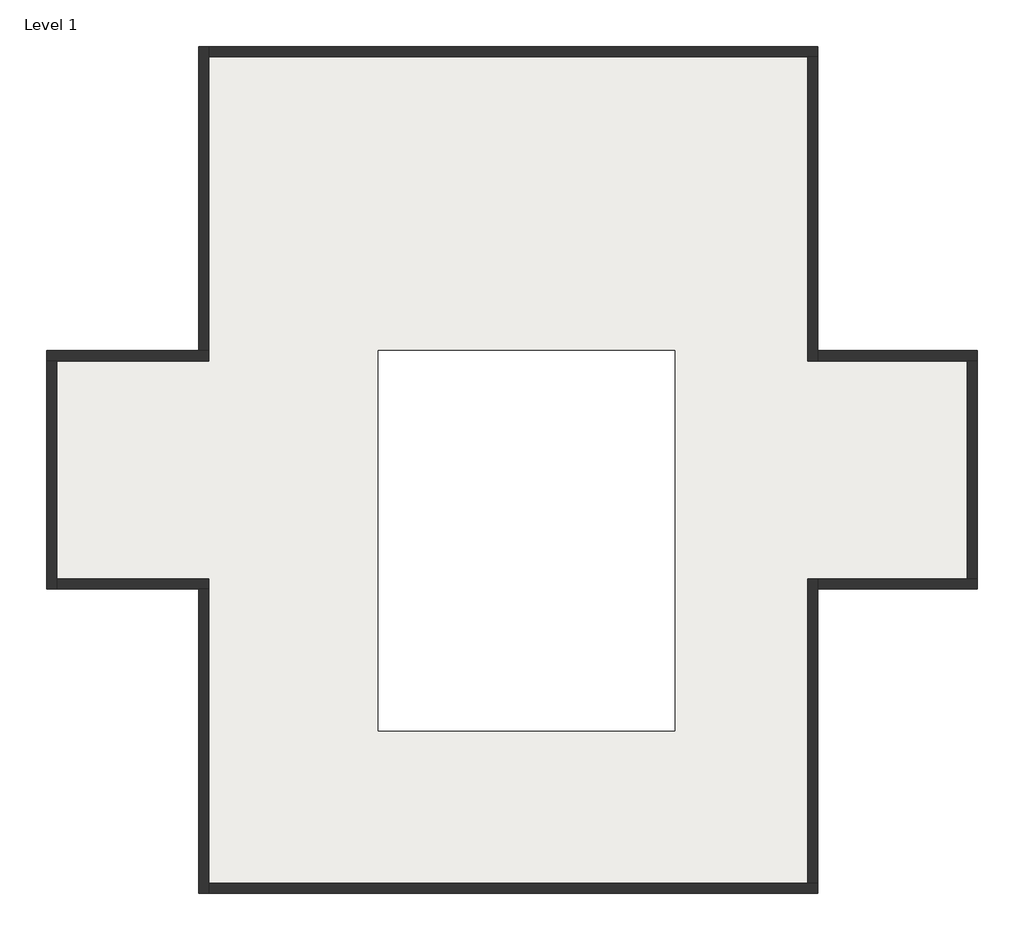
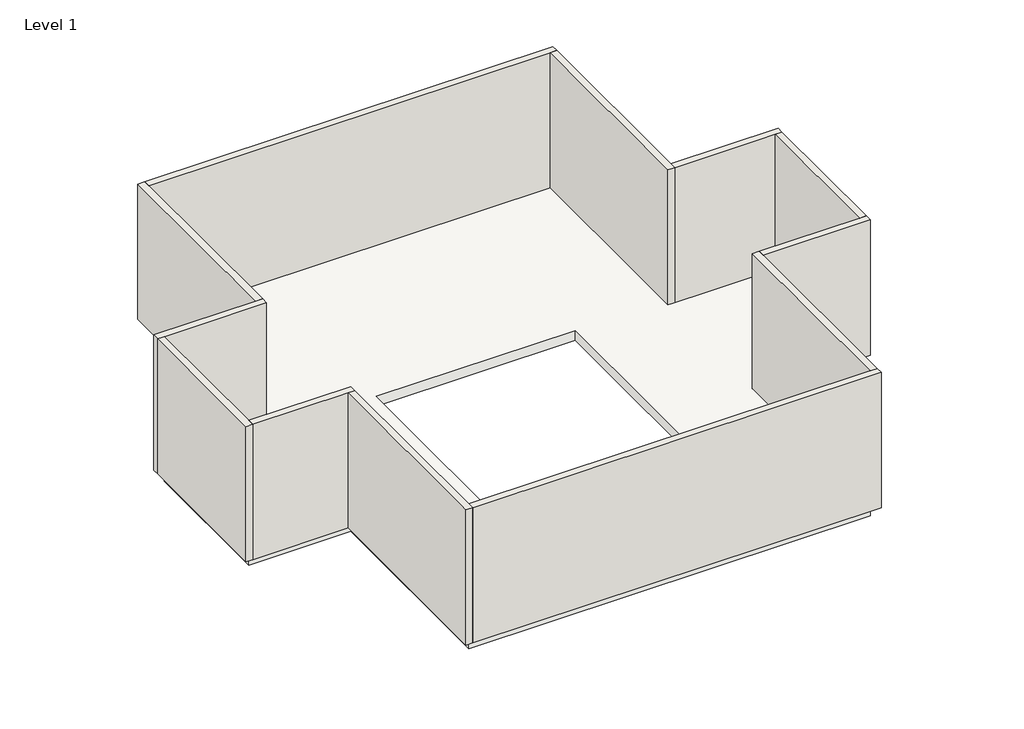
# One storey: 12 walls, 1 slab.
"""IFC4 building model written with IfcOpenShell, lengths in millimetres."""

import ifcopenshell
import ifcopenshell.guid

model = None  # the IFC model being written
_history = None  # IfcOwnerHistory: only IFC2X3 demands one
_inside = {}  # id of a spatial element -> (the spatial element, [elements in it])
_under = {}  # id of a project, library or spatial element -> (it, [spatial elements below it])
_declared = {}  # id of a project -> (the project, [libraries it declares])
_typed = {}  # id of a type object -> (the type object, [elements of that type])
_made_of = {}  # id of a material, layer set ... -> (it, [elements and type objects made of it])


def new_model(schema):
    """Start an empty IFC model of exactly this schema.

    Asked for "IFC4X3", IfcOpenShell would pick the latest addendum, in which some entities
    have other attributes; the version numbers below select the first issue.
    IFC2X3 requires an IfcOwnerHistory on every rooted entity: one is made here for all.
    """
    global model, _history
    if schema == "IFC4X3":
        model = ifcopenshell.file(schema_version=(4, 3, 0, 0))
    else:
        model = ifcopenshell.file(schema=schema)
    _inside.clear()
    _under.clear()
    _declared.clear()
    _typed.clear()
    _made_of.clear()
    _history = None
    if model.schema == "IFC2X3":
        org = make("IfcOrganization", Name="unknown")
        user = make(
            "IfcPersonAndOrganization",
            ThePerson=make("IfcPerson", FamilyName="unknown"),
            TheOrganization=org,
        )
        app = make(
            "IfcApplication",
            ApplicationDeveloper=org,
            Version="unknown",
            ApplicationFullName="unknown",
            ApplicationIdentifier="unknown",
        )
        _history = make(
            "IfcOwnerHistory",
            OwningUser=user,
            OwningApplication=app,
            ChangeAction="ADDED",
            CreationDate=0,
        )
    return model


def make(cls, **values):
    """One entity of the class cls with the attributes given. An attribute that is None is left unset."""
    return model.create_entity(
        cls, **{name: value for name, value in values.items() if value is not None}
    )


def rooted(cls, **values):
    """An entity with a GlobalId (a new one), such as an element, a storey or a relation."""
    return make(cls, GlobalId=ifcopenshell.guid.new(), OwnerHistory=_history, **values)


def si_unit(unit_type, name, prefix=None):
    """IfcSIUnit, for example si_unit("LENGTHUNIT", "METRE", prefix="MILLI")."""
    return make("IfcSIUnit", UnitType=unit_type, Prefix=prefix, Name=name)


def assignment(units):
    """IfcUnitAssignment: the units of a project."""
    return None if units is None else make("IfcUnitAssignment", Units=units)


def point(xyz):
    """IfcCartesianPoint."""
    return None if xyz is None else make("IfcCartesianPoint", Coordinates=xyz)


def direction(xyz):
    """IfcDirection."""
    return None if xyz is None else make("IfcDirection", DirectionRatios=xyz)


def frame(location, z_axis=None, x_axis=None):
    """IfcAxis2Placement3D, a coordinate frame: its origin and axes. An axis left out is left unset."""
    return make(
        "IfcAxis2Placement3D",
        Location=point(location),
        Axis=direction(z_axis),
        RefDirection=direction(x_axis),
    )


def origin():
    """The frame at (0, 0, 0) with its axes left unset."""
    return frame((0.0, 0.0, 0.0))


def origin_with_axes():
    """The frame at (0, 0, 0) with the z axis (0, 0, 1) and the x axis (1, 0, 0) written out."""
    return frame((0.0, 0.0, 0.0), z_axis=(0.0, 0.0, 1.0), x_axis=(1.0, 0.0, 0.0))


def place(relative_to, where):
    """IfcLocalPlacement: puts the frame where relative to a parent placement (None: the world)."""
    return make(
        "IfcLocalPlacement", PlacementRelTo=relative_to, RelativePlacement=where
    )


def context(
    kind, dimensions, precision=None, world=None, true_north=None, identifier=None
):
    """IfcGeometricRepresentationContext, for example the 3D "Model" context."""
    return make(
        "IfcGeometricRepresentationContext",
        ContextIdentifier=identifier,
        ContextType=kind,
        CoordinateSpaceDimension=dimensions,
        Precision=precision,
        WorldCoordinateSystem=world,
        TrueNorth=true_north,
    )


def project(units=None, contexts=None):
    """IfcProject with its units and contexts."""
    return rooted(
        "IfcProject",
        Name="project",
        RepresentationContexts=contexts,
        UnitsInContext=assignment(units),
    )


def spatial(cls, under=None, at=None, **own):
    """A site, building, storey or space (cls), placed at a placement, below another one or the project."""
    s = rooted(cls, ObjectPlacement=at, **own)
    if under is not None:
        _under.setdefault(under.id(), (under, []))[1].append(s)
    return s


def polyline(points):
    """IfcPolyline through the points."""
    return make("IfcPolyline", Points=[point(p) for p in points])


def outline(outer, holes=None, kind="AREA"):
    """IfcArbitraryClosedProfileDef: a profile drawn as a closed curve; with holes, ...WithVoids."""
    if holes is None:
        return make("IfcArbitraryClosedProfileDef", ProfileType=kind, OuterCurve=outer)
    return make(
        "IfcArbitraryProfileDefWithVoids",
        ProfileType=kind,
        OuterCurve=outer,
        InnerCurves=holes,
    )


def extrude(swept, where, along, depth):
    """IfcExtrudedAreaSolid: the profile swept, set in the frame where, extruded along a direction by depth."""
    return make(
        "IfcExtrudedAreaSolid",
        SweptArea=swept,
        Position=where,
        ExtrudedDirection=direction(along),
        Depth=depth,
    )


def faces_of(points, faces, orient=None, outer=None):
    """IfcFace entities. A face is a list of loops; a loop is a list of indices into points, from 0.

    orient and outer hold one flag for each loop. By default every Orientation is true, the
    first loop of a face is its IfcFaceOuterBound and the others are IfcFaceBound.
    """
    made = []
    for i, loops in enumerate(faces):
        bounds = []
        for j, loop in enumerate(loops):
            is_outer = j == 0 if outer is None else outer[i][j]
            bounds.append(
                make(
                    "IfcFaceOuterBound" if is_outer else "IfcFaceBound",
                    Bound=make("IfcPolyLoop", Polygon=[points[k] for k in loop]),
                    Orientation=True if orient is None else orient[i][j],
                )
            )
        made.append(make("IfcFace", Bounds=bounds))
    return made


def faceted_brep(points, faces, orient=None, outer=None, voids=None):
    """IfcFacetedBrep: a solid bounded by flat faces; with voids (closed shells), ...WithVoids."""
    shared = [point(p) for p in points]
    hull = make("IfcClosedShell", CfsFaces=faces_of(shared, faces, orient, outer))
    if voids is None:
        return make("IfcFacetedBrep", Outer=hull)
    return make(
        "IfcFacetedBrepWithVoids",
        Outer=hull,
        Voids=[
            make(cls, CfsFaces=faces_of(shared, fs, o, b)) for cls, fs, o, b in voids
        ],
    )


def shape(context_of_items, identifier, shape_type, items):
    """IfcShapeRepresentation: the items that make up one representation, for example the "Body"."""
    return make(
        "IfcShapeRepresentation",
        ContextOfItems=context_of_items,
        RepresentationIdentifier=identifier,
        RepresentationType=shape_type,
        Items=items,
    )


def made_of(thing, what):
    """Note that an element or type object is made of a material, layer set ...; save() writes the relation."""
    if what is not None:
        _made_of.setdefault(what.id(), (what, []))[1].append(thing)
    return thing


def element(
    cls,
    number,
    at=None,
    inside=None,
    cuts=None,
    type_object=None,
    material=None,
    context=None,
    identifier="Body",
    shape_type=None,
    held_by="IfcProductDefinitionShape",
    body=None,
    shapes=None,
    **own,
):
    """One element of the class cls, such as IfcWall. Its Tag is "e" and its number.

    at: its placement. inside: the storey or other place that contains it. cuts: it is an
    opening in that element (IfcRelVoidsElement). A single representation is given by context,
    identifier, shape_type and body (its items); several are given by shapes. held_by: the class
    of the entity that holds the representations. save() writes the other relations.
    """
    e = rooted(cls, Tag="e%d" % number, ObjectPlacement=at, **own)
    if body is not None:
        shapes = [shape(context, identifier, shape_type, body)]
    if shapes is not None:
        e.Representation = make(held_by, Representations=shapes)
    if inside is not None:
        _inside.setdefault(inside.id(), (inside, []))[1].append(e)
    if cuts is not None:
        rooted(
            "IfcRelVoidsElement", RelatingBuildingElement=cuts, RelatedOpeningElement=e
        )
    if type_object is not None:
        _typed.setdefault(type_object.id(), (type_object, []))[1].append(e)
    return made_of(e, material)


def aggregate(whole, parts):
    """IfcRelAggregates: a whole, such as a stair, and the parts it consists of."""
    return rooted("IfcRelAggregates", RelatingObject=whole, RelatedObjects=parts)


def save(model, path):
    """Write the relations noted so far, then the file.

    IfcRelAggregates (storeys below a building ...), IfcRelContainedInSpatialStructure (elements
    in a storey), IfcRelDefinesByType, IfcRelAssociatesMaterial and IfcRelDeclares: one each for
    every whole, place, type object, material and project.
    """
    for whole, parts in _under.values():
        aggregate(whole, parts)
    for where, things in _inside.values():
        rooted(
            "IfcRelContainedInSpatialStructure",
            RelatedElements=things,
            RelatingStructure=where,
        )
    for kind, things in _typed.values():
        rooted("IfcRelDefinesByType", RelatedObjects=things, RelatingType=kind)
    for what, things in _made_of.values():
        rooted("IfcRelAssociatesMaterial", RelatedObjects=things, RelatingMaterial=what)
    for by, libraries in _declared.values():
        rooted("IfcRelDeclares", RelatingContext=by, RelatedDefinitions=libraries)
    model.write(path)


model = new_model("IFC4")

# Units and contexts
model_context = context("Model", 3, world=origin())
ifc_project = project(units=[si_unit("LENGTHUNIT", "METRE", prefix="MILLI")], contexts=[model_context])

# Site, building, storey
site = spatial("IfcSite", under=ifc_project)
building = spatial("IfcBuilding", under=site)
storey = spatial("IfcBuildingStorey", under=building, Name="Level 1", Elevation=0.0)

# Slab
placement = place(None, origin())
element("IfcSlab", 1, ObjectType="Generic - 12\"", at=placement, inside=storey, context=model_context, shape_type="SweptSolid", body=[
    extrude(outline(polyline([(6530.3643431, 7987.4066271), (6530.3643431, 1891.4066271), (9730.7643431, 1891.4066271), (9730.7643431, -2477.3933729), (6530.3643431, -2477.3933729), (6530.3643431, -8573.3933729), (-5458.4356569, -8573.3933729), (-5458.4356569, -2477.3933729), (-8506.4356569, -2477.3933729), (-8506.4356569, 1891.4066271), (-5458.4356569, 1891.4066271), (-5458.4356569, 7987.4066271), (6530.3643431, 7987.4066271)]), holes=[polyline([(3873.446002, -5525.3933729), (3873.446002, 2094.6066271), (-2070.153998, 2094.6066271), (-2070.153998, -5525.3933729), (3873.446002, -5525.3933729)])]), frame((0.0, 0.0, -304.8), z_axis=(0.0, 0.0, 1.0), x_axis=(1.0, 0.0, 0.0)), (0.0, 0.0, 1.0), 304.8),
])

# Walls
element("IfcWall", 2, ObjectType="Generic - 8\"", at=placement, inside=storey, context=model_context, shape_type="Brep", body=[
    faceted_brep([(-8709.6356569, 1891.4066271, 0.0), (-8506.4356569, 1891.4066271, 0.0), (-5458.4356569, 1891.4066271, 0.0), (-5458.4356569, 1891.4066271, 4267.2), (-8506.4356569, 1891.4066271, 4267.2), (-8709.6356569, 1891.4066271, 4267.2), (-8709.6356569, 2094.6066271, 0.0), (-8709.6356569, 2094.6066271, 4267.2), (-5661.6356569, 2094.6066271, 4267.2), (-5458.4356569, 2094.6066271, 4267.2), (-5458.4356569, 2094.6066271, 0.0), (-5661.6356569, 2094.6066271, 0.0)], [[[0, 1, 2, 3, 4, 5]], [[6, 7, 8, 9, 10, 11]], [[2, 1, 0, 6, 11, 10]], [[5, 4, 3, 9, 8, 7]], [[3, 2, 10, 9]], [[0, 5, 7, 6]]]),
])
element("IfcWall", 3, ObjectType="Generic - 8\"", at=placement, inside=storey, context=model_context, shape_type="Brep", body=[
    faceted_brep([(-5458.4356569, 2094.6066271, 0.0), (-5458.4356569, 7987.4066271, 0.0), (-5458.4356569, 8190.6066271, 0.0), (-5458.4356569, 8190.6066271, 4267.2), (-5458.4356569, 7987.4066271, 4267.2), (-5458.4356569, 2094.6066271, 4267.2), (-5661.6356569, 2094.6066271, 0.0), (-5661.6356569, 2094.6066271, 4267.2), (-5661.6356569, 8190.6066271, 4267.2), (-5661.6356569, 8190.6066271, 0.0)], [[[0, 1, 2, 3, 4, 5]], [[6, 7, 8, 9]], [[2, 1, 0, 6, 9]], [[5, 4, 3, 8, 7]], [[3, 2, 9, 8]], [[0, 5, 7, 6]]]),
])
element("IfcWall", 4, ObjectType="Generic - 8\"", at=placement, inside=storey, context=model_context, shape_type="Brep", body=[
    faceted_brep([(-5458.4356569, 7987.4066271, 0.0), (6530.3643431, 7987.4066271, 0.0), (6733.5643431, 7987.4066271, 0.0), (6733.5643431, 7987.4066271, 4267.2), (6530.3643431, 7987.4066271, 4267.2), (-5458.4356569, 7987.4066271, 4267.2), (-5458.4356569, 8190.6066271, 0.0), (-5458.4356569, 8190.6066271, 4267.2), (6733.5643431, 8190.6066271, 4267.2), (6733.5643431, 8190.6066271, 0.0)], [[[0, 1, 2, 3, 4, 5]], [[6, 7, 8, 9]], [[2, 1, 0, 6, 9]], [[5, 4, 3, 8, 7]], [[3, 2, 9, 8]], [[0, 5, 7, 6]]]),
])
element("IfcWall", 5, ObjectType="Generic - 8\"", at=placement, inside=storey, context=model_context, shape_type="Brep", body=[
    faceted_brep([(6530.3643431, 7987.4066271, 0.0), (6530.3643431, 1891.4066271, 0.0), (6530.3643431, 1891.4066271, 4267.2), (6530.3643431, 7987.4066271, 4267.2), (6733.5643431, 7987.4066271, 0.0), (6733.5643431, 7987.4066271, 4267.2), (6733.5643431, 2094.6066271, 4267.2), (6733.5643431, 1891.4066271, 4267.2), (6733.5643431, 1891.4066271, 0.0), (6733.5643431, 2094.6066271, 0.0)], [[[0, 1, 2, 3]], [[4, 5, 6, 7, 8, 9]], [[1, 0, 4, 9, 8]], [[3, 2, 7, 6, 5]], [[2, 1, 8, 7]], [[0, 3, 5, 4]]]),
])
element("IfcWall", 6, ObjectType="Generic - 8\"", at=placement, inside=storey, context=model_context, shape_type="Brep", body=[
    faceted_brep([(6733.5643431, 1891.4066271, 0.0), (9730.7643431, 1891.4066271, 0.0), (9933.9643431, 1891.4066271, 0.0), (9933.9643431, 1891.4066271, 4267.2), (9730.7643431, 1891.4066271, 4267.2), (6733.5643431, 1891.4066271, 4267.2), (6733.5643431, 2094.6066271, 0.0), (6733.5643431, 2094.6066271, 4267.2), (9933.9643431, 2094.6066271, 4267.2), (9933.9643431, 2094.6066271, 0.0)], [[[0, 1, 2, 3, 4, 5]], [[6, 7, 8, 9]], [[2, 1, 0, 6, 9]], [[5, 4, 3, 8, 7]], [[3, 2, 9, 8]], [[0, 5, 7, 6]]]),
])
element("IfcWall", 7, ObjectType="Generic - 8\"", at=placement, inside=storey, context=model_context, shape_type="Brep", body=[
    faceted_brep([(-8709.6356569, 1891.4066271, 0.0), (-8709.6356569, -2680.5933729, 0.0), (-8709.6356569, -2680.5933729, 4267.2), (-8709.6356569, 1891.4066271, 4267.2), (-8506.4356569, 1891.4066271, 0.0), (-8506.4356569, 1891.4066271, 4267.2), (-8506.4356569, -2477.3933729, 4267.2), (-8506.4356569, -2680.5933729, 4267.2), (-8506.4356569, -2680.5933729, 0.0), (-8506.4356569, -2477.3933729, 0.0)], [[[0, 1, 2, 3]], [[4, 5, 6, 7, 8, 9]], [[1, 0, 4, 9, 8]], [[3, 2, 7, 6, 5]], [[2, 1, 8, 7]], [[0, 3, 5, 4]]]),
])
element("IfcWall", 8, ObjectType="Generic - 8\"", at=placement, inside=storey, context=model_context, shape_type="Brep", body=[
    faceted_brep([(-8506.4356569, -2680.5933729, 0.0), (-5661.6356569, -2680.5933729, 0.0), (-5458.4356569, -2680.5933729, 0.0), (-5458.4356569, -2680.5933729, 4267.2), (-5661.6356569, -2680.5933729, 4267.2), (-8506.4356569, -2680.5933729, 4267.2), (-8506.4356569, -2477.3933729, 0.0), (-8506.4356569, -2477.3933729, 4267.2), (-5458.4356569, -2477.3933729, 4267.2), (-5458.4356569, -2477.3933729, 0.0)], [[[0, 1, 2, 3, 4, 5]], [[6, 7, 8, 9]], [[2, 1, 0, 6, 9]], [[5, 4, 3, 8, 7]], [[3, 2, 9, 8]], [[0, 5, 7, 6]]]),
])
element("IfcWall", 9, ObjectType="Generic - 8\"", at=placement, inside=storey, context=model_context, shape_type="Brep", body=[
    faceted_brep([(-5661.6356569, -2680.5933729, 0.0), (-5661.6356569, -8776.5933729, 0.0), (-5661.6356569, -8776.5933729, 4267.2), (-5661.6356569, -2680.5933729, 4267.2), (-5458.4356569, -2680.5933729, 0.0), (-5458.4356569, -2680.5933729, 4267.2), (-5458.4356569, -8573.3933729, 4267.2), (-5458.4356569, -8776.5933729, 4267.2), (-5458.4356569, -8776.5933729, 0.0), (-5458.4356569, -8573.3933729, 0.0)], [[[0, 1, 2, 3]], [[4, 5, 6, 7, 8, 9]], [[1, 0, 4, 9, 8]], [[3, 2, 7, 6, 5]], [[2, 1, 8, 7]], [[0, 3, 5, 4]]]),
])
element("IfcWall", 10, ObjectType="Generic - 8\"", at=placement, inside=storey, context=model_context, shape_type="Brep", body=[
    faceted_brep([(-5458.4356569, -8776.5933729, 0.0), (6733.5643431, -8776.5933729, 0.0), (6733.5643431, -8776.5933729, 4267.2), (-5458.4356569, -8776.5933729, 4267.2), (-5458.4356569, -8573.3933729, 0.0), (-5458.4356569, -8573.3933729, 4267.2), (6530.3643431, -8573.3933729, 4267.2), (6733.5643431, -8573.3933729, 4267.2), (6733.5643431, -8573.3933729, 0.0), (6530.3643431, -8573.3933729, 0.0)], [[[0, 1, 2, 3]], [[4, 5, 6, 7, 8, 9]], [[1, 0, 4, 9, 8]], [[3, 2, 7, 6, 5]], [[2, 1, 8, 7]], [[0, 3, 5, 4]]]),
])
element("IfcWall", 11, ObjectType="Generic - 8\"", at=placement, inside=storey, context=model_context, shape_type="Brep", body=[
    faceted_brep([(6733.5643431, -8573.3933729, 0.0), (6733.5643431, -2680.5933729, 0.0), (6733.5643431, -2477.3933729, 0.0), (6733.5643431, -2477.3933729, 4267.2), (6733.5643431, -2680.5933729, 4267.2), (6733.5643431, -8573.3933729, 4267.2), (6530.3643431, -8573.3933729, 0.0), (6530.3643431, -8573.3933729, 4267.2), (6530.3643431, -2477.3933729, 4267.2), (6530.3643431, -2477.3933729, 0.0)], [[[0, 1, 2, 3, 4, 5]], [[6, 7, 8, 9]], [[2, 1, 0, 6, 9]], [[5, 4, 3, 8, 7]], [[3, 2, 9, 8]], [[0, 5, 7, 6]]]),
])
element("IfcWall", 12, ObjectType="Generic - 8\"", at=placement, inside=storey, context=model_context, shape_type="Brep", body=[
    faceted_brep([(6733.5643431, -2680.5933729, 0.0), (9933.9643431, -2680.5933729, 0.0), (9933.9643431, -2680.5933729, 4267.2), (6733.5643431, -2680.5933729, 4267.2), (6733.5643431, -2477.3933729, 0.0), (6733.5643431, -2477.3933729, 4267.2), (9730.7643431, -2477.3933729, 4267.2), (9933.9643431, -2477.3933729, 4267.2), (9933.9643431, -2477.3933729, 0.0), (9730.7643431, -2477.3933729, 0.0)], [[[0, 1, 2, 3]], [[4, 5, 6, 7, 8, 9]], [[1, 0, 4, 9, 8]], [[3, 2, 7, 6, 5]], [[2, 1, 8, 7]], [[0, 3, 5, 4]]]),
])
element("IfcWall", 13, ObjectType="Generic - 8\"", at=placement, inside=storey, context=model_context, shape_type="SweptSolid", body=[
    extrude(outline(polyline([(9933.9643431, 1891.4066271), (9933.9643431, -2477.3933729), (9730.7643431, -2477.3933729), (9730.7643431, 1891.4066271), (9933.9643431, 1891.4066271)])), origin_with_axes(), (0.0, 0.0, 1.0), 4267.2),
])

save(model, "model.ifc")
